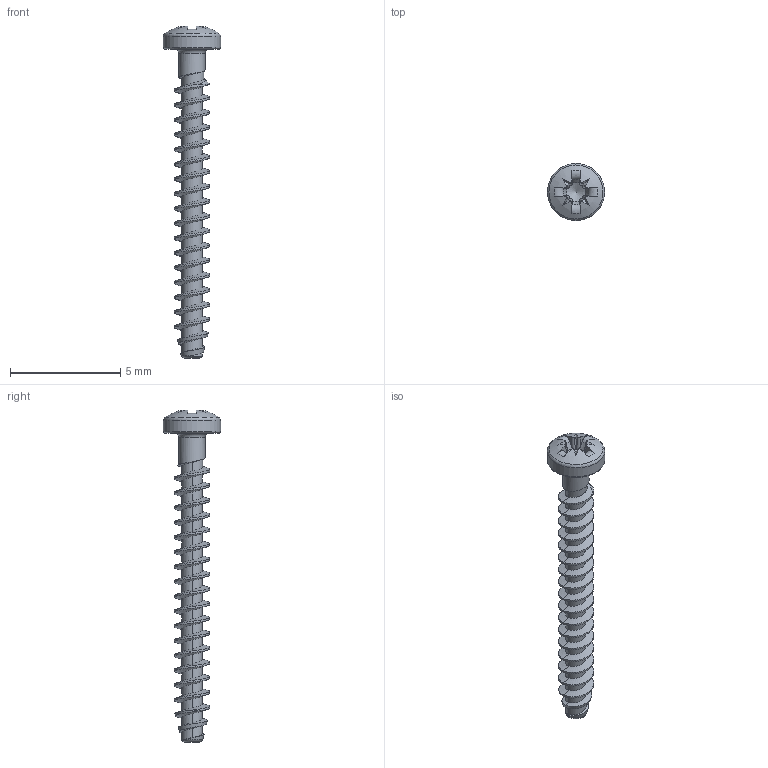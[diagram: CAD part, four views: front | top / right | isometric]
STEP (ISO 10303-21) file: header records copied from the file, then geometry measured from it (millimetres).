
FILE_DESCRIPTION(/* description */ (''),/* implementation_level */ '2;1');
FILE_NAME(/* name */ 'KN1032-STS-16x14-Z0.step',/* time_stamp */ '2017-10-16T13:27:50+02:00',/* author */ (''),/* organization */ (''),/* preprocessor_version */ 'ST-DEVELOPER v16',/* originating_system */ 'SIEMENS PLM Software NX 10.0',/* authorisation */ '');
FILE_SCHEMA (('AUTOMOTIVE_DESIGN { 1 0 10303 214 3 1 1 1 }'));
Length unit declared in the file: millimetre
Products named in the file (1): KN1032-STS-16x14-Z0
Bounding box: 2.6 x 2.6 x 15.05 mm (x, y, z)
Surface area: 102.3 mm2 (no closed solid volume)
Topology: 0 solids, 1 shells, 114 faces, 293 edges, 180 vertices
Faces by surface type: bspline 60, plane 26, cylinder 12, torus 8, cone 7, sphere 1
Full cylindrical faces by diameter (mm): 1.18 x1, 2.6 x1
Entity records: 7328 total; most frequent: CARTESIAN_POINT 5081, ORIENTED_EDGE 548, DIRECTION 291, EDGE_CURVE 274, VERTEX_POINT 172, B_SPLINE_CURVE_WITH_KNOTS 138, EDGE_LOOP 121, ADVANCED_FACE 113
